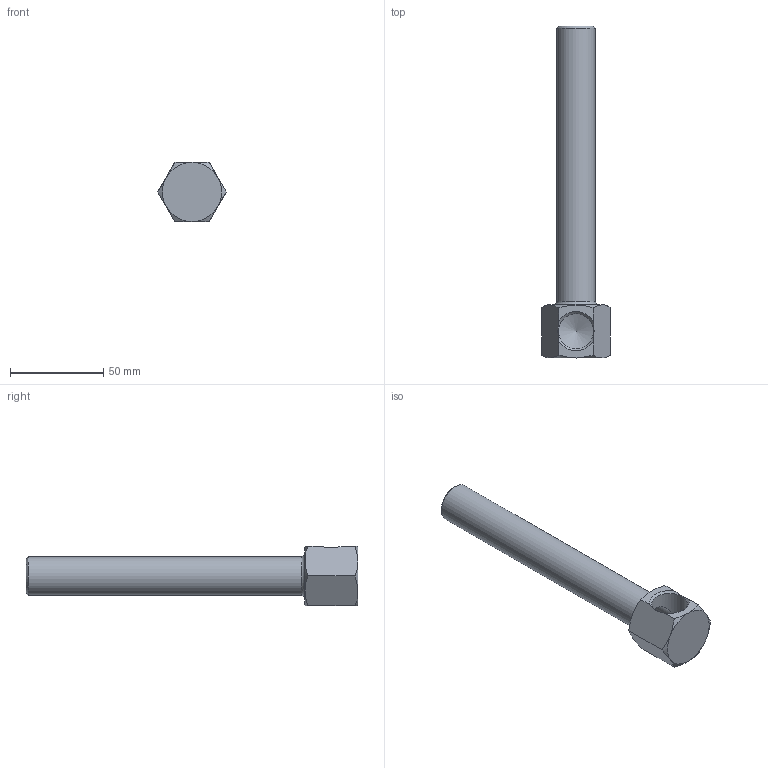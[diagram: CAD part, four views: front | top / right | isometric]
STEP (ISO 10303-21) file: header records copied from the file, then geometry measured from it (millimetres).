
FILE_DESCRIPTION(/* description */ (''),/* implementation_level */ '2;1');
FILE_NAME(/* name */ 'C:/Users/drich/Desktop/50B-7 v1.step',/* time_stamp */ '2019-12-29T15:26:10-06:00',/* author */ (''),/* organization */ (''),/* preprocessor_version */ 'ST-DEVELOPER v18',/* originating_system */ 'Autodesk Translation Framework v8.12.0.6',/* authorisation */ '');
FILE_SCHEMA (('AUTOMOTIVE_DESIGN { 1 0 10303 214 3 1 1 }'));
Length unit declared in the file: inch
Products named in the file (1): 50B-7
Bounding box: 36.66 x 177.8 x 31.75 mm (x, y, z)
Volume: 40949.6 mm3; surface area: 22825.1 mm2
Topology: 1 solids, 1 shells, 20 faces, 53 edges, 35 vertices
Faces by surface type: plane 10, cone 6, cylinder 3, torus 1
Full cylindrical faces by diameter (mm): 15.062 x1, 18.901 x1, 20.813 x1
Entity records: 687 total; most frequent: CARTESIAN_POINT 184, ORIENTED_EDGE 104, DIRECTION 91, EDGE_CURVE 52, AXIS2_PLACEMENT_3D 37, VERTEX_POINT 35, EDGE_LOOP 23, FACE_OUTER_BOUND 20
